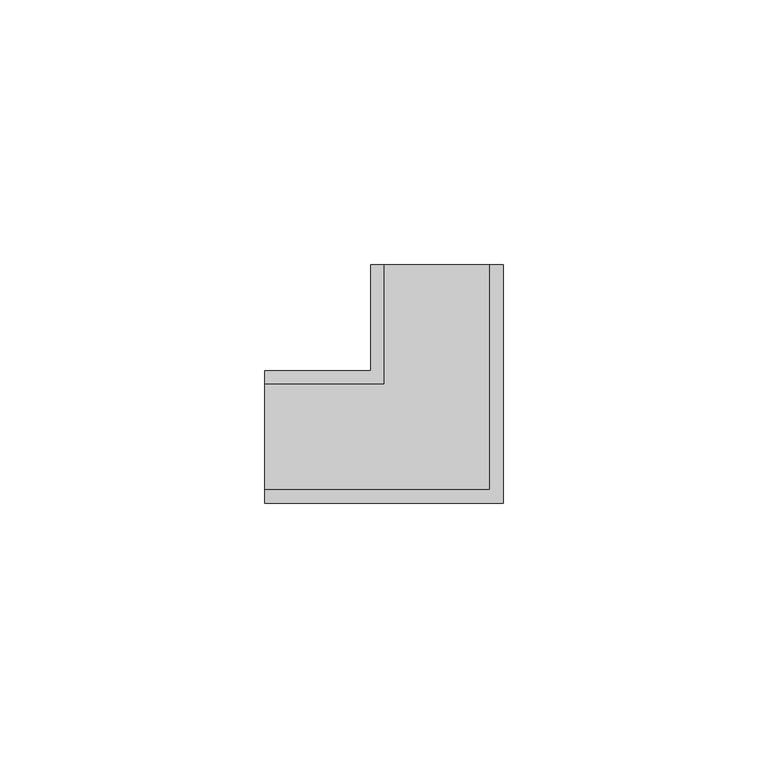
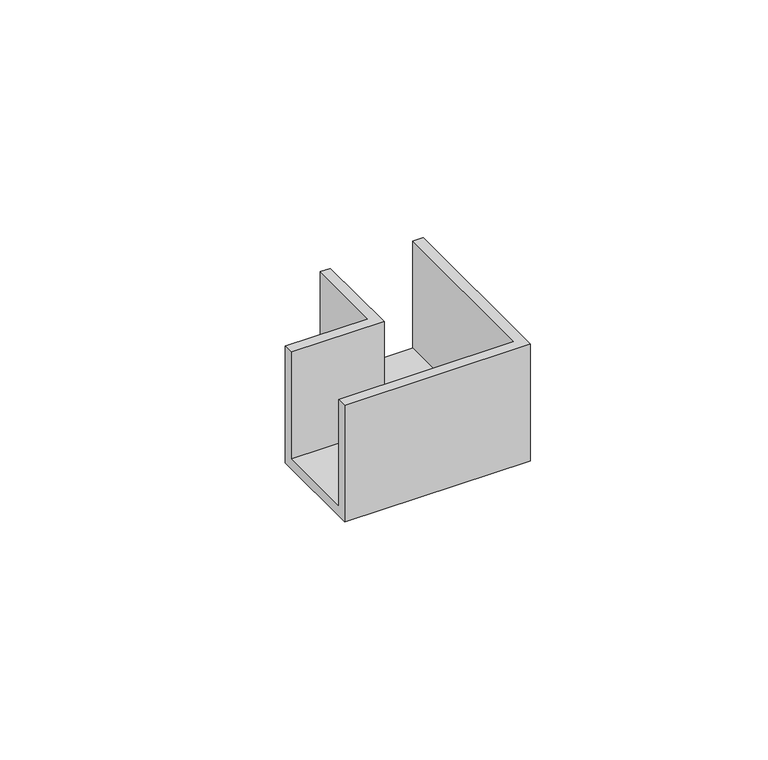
"""IFC4 building model written with IfcOpenShell, lengths in millimetres: cable carrier fitting geometry, КНС_УголПлоский NPAN_ILC_DKC : Угол плоский NPAN_DKC."""

from ifc_helpers import new_model, si_unit, origin, place, context, project, spatial, faceted_brep, source, transform, mapped, element, save


def cable_carrier_fitting_994154e6(model_context):
    return source(origin(), model_context, "Body", "Brep", [
        faceted_brep([(-32.5, 12.5, -15.0), (-32.5, -12.5, -15.0), (-32.5, -12.5, 15.0), (-32.5, -10.0, 15.0), (-32.5, -10.0, -12.5), (-32.5, 10.0, -12.5), (-32.5, 10.0, 15.0), (-32.5, 12.5, 15.0), (-12.5, 12.5, -15.0), (-12.5, 32.5, -15.0), (12.5, 32.5, -15.0), (12.5, -12.5, -15.0), (12.5, -12.5, 15.0), (12.5, 32.5, 15.0), (10.0, 32.5, 15.0), (10.0, -10.0, 15.0), (10.0, -10.0, -12.5), (10.0, 32.5, -12.5), (-10.0, 32.5, -12.5), (-10.0, 10.0, -12.5), (-10.0, 10.0, 15.0), (-10.0, 32.5, 15.0), (-12.5, 32.5, 15.0), (-12.5, 12.5, 15.0)], [[[0, 1, 2, 3, 4, 5, 6, 7]], [[1, 0, 8, 9, 10, 11]], [[2, 1, 11, 12]], [[3, 2, 12, 13, 14, 15]], [[4, 3, 15, 16]], [[5, 4, 16, 17, 18, 19]], [[6, 5, 19, 20]], [[7, 6, 20, 21, 22, 23]], [[0, 7, 23, 8]], [[9, 22, 21, 18, 17, 14, 13, 10]], [[12, 11, 10, 13]], [[16, 15, 14, 17]], [[20, 19, 18, 21]], [[8, 23, 22, 9]]]),
    ])


if __name__ == "__main__":
    model = new_model("IFC4")
    model_context = context("Model", 3, world=origin())
    ifc_project = project(units=[si_unit("LENGTHUNIT", "METRE", prefix="MILLI")], contexts=[model_context])
    site = spatial("IfcSite", under=ifc_project)
    building = spatial("IfcBuilding", under=site)
    placement = place(None, origin())
    cable_carrier_fitting_shape = cable_carrier_fitting_994154e6(model_context)
    element("IfcCableCarrierFitting", 1, ObjectType="КНС_УголПлоский NPAN_ILC_DKC : Угол плоский NPAN_DKC", at=placement, inside=building, context=model_context, shape_type="MappedRepresentation", body=[
        mapped(cable_carrier_fitting_shape, transform((0.0, 0.0, 0.0), x_axis=(1.0, 0.0, 0.0), y_axis=(0.0, 1.0, 0.0), z_axis=(0.0, 0.0, 1.0))),
    ])
    save(model, "model.ifc")
